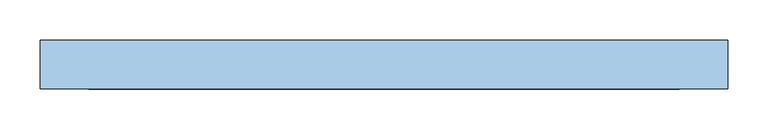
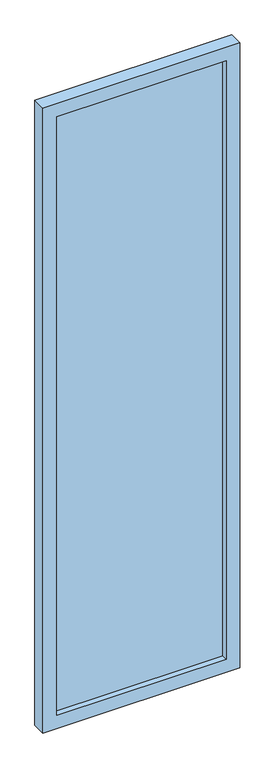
"""IFC4 building model written with IfcOpenShell, lengths in millimetres: window geometry, 固定窗-矩形- (1) : 2FL_東面_固定窗_矩型_85 x 285cm."""

from ifc_helpers import new_model, si_unit, frame, origin, place, context, project, spatial, polyline, outline, extrude, source, transform, mapped, element, save


def window_07f3a77e(model_context):
    return source(origin(), model_context, "Body", "SweptSolid", [
        extrude(outline(polyline([(2850.0, 425.0), (2850.0, -425.0), (0.0, -425.0), (0.0, 425.0), (2850.0, 425.0)]), holes=[polyline([(2790.0, 365.0), (60.0, 365.0), (60.0, -365.0), (2790.0, -365.0), (2790.0, 365.0)])]), frame((0.0, -60.0, 0.0), z_axis=(0.0, 1.0, 0.0), x_axis=(0.0, 0.0, 1.0)), (0.0, 0.0, 1.0), 60.0),
        extrude(outline(polyline([(-365.0, -25.0), (365.0, -25.0), (365.0, -35.0), (-365.0, -35.0), (-365.0, -25.0)])), frame((0.0, 0.0, 60.0), z_axis=(0.0, 0.0, 1.0), x_axis=(1.0, 0.0, 0.0)), (0.0, 0.0, 1.0), 2730.0),
    ])


if __name__ == "__main__":
    model = new_model("IFC4")
    model_context = context("Model", 3, world=origin())
    ifc_project = project(units=[si_unit("LENGTHUNIT", "METRE", prefix="MILLI")], contexts=[model_context])
    site = spatial("IfcSite", under=ifc_project)
    building = spatial("IfcBuilding", under=site)
    placement = place(None, origin())
    window_shape = window_07f3a77e(model_context)
    element("IfcWindow", 1, ObjectType="固定窗-矩形- (1) : 2FL_東面_固定窗_矩型_85 x 285cm", at=placement, inside=building, context=model_context, shape_type="MappedRepresentation", body=[
        mapped(window_shape, transform((0.0, 0.0, 0.0), x_axis=(1.0, 0.0, 0.0), y_axis=(0.0, 1.0, 0.0), z_axis=(0.0, 0.0, 1.0))),
    ])
    save(model, "model.ifc")
